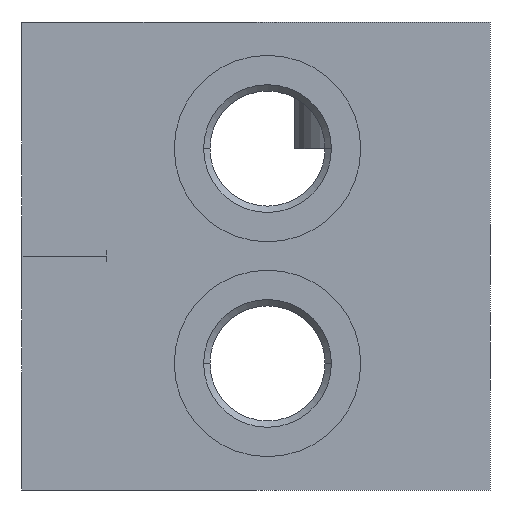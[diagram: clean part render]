
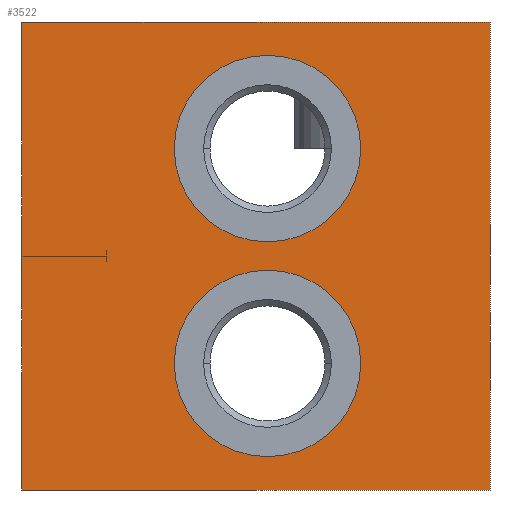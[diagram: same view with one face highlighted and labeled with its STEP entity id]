
A CAD part, left-side view. The second image highlights one B-rep face of the part: STEP entity #3522.
In plain terms, the highlighted planar face has unit normal (-1, 0, 0).
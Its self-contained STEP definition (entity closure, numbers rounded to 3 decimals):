
#25=DIRECTION('',(0.,-1.,0.));
#26=VECTOR('',#25,61.);
#27=CARTESIAN_POINT('',(0.,61.,0.));
#28=LINE('',#27,#26);
#97=DIRECTION('',(0.,0.,-1.));
#98=VECTOR('',#97,61.);
#99=CARTESIAN_POINT('',(0.,0.,0.));
#100=LINE('',#99,#98);
#559=DIRECTION('',(0.,0.,-1.));
#560=VECTOR('',#559,61.);
#561=CARTESIAN_POINT('',(0.,61.,0.));
#562=LINE('',#561,#560);
#563=CARTESIAN_POINT('',(0.,29.,-44.5));
#564=DIRECTION('',(1.,0.,0.));
#565=DIRECTION('',(0.,-1.,0.));
#566=AXIS2_PLACEMENT_3D('',#563,#564,#565);
#568=CARTESIAN_POINT('',(0.,29.,-44.5));
#569=DIRECTION('',(1.,0.,0.));
#570=DIRECTION('',(0.,1.,0.));
#571=AXIS2_PLACEMENT_3D('',#568,#569,#570);
#573=CARTESIAN_POINT('',(0.,29.,-16.5));
#574=DIRECTION('',(1.,0.,0.));
#575=DIRECTION('',(0.,-1.,0.));
#576=AXIS2_PLACEMENT_3D('',#573,#574,#575);
#578=CARTESIAN_POINT('',(0.,29.,-16.5));
#579=DIRECTION('',(1.,0.,0.));
#580=DIRECTION('',(0.,1.,0.));
#581=AXIS2_PLACEMENT_3D('',#578,#579,#580);
#595=DIRECTION('',(0.,-1.,0.));
#596=VECTOR('',#595,61.);
#597=CARTESIAN_POINT('',(0.,61.,-61.));
#598=LINE('',#597,#596);
#2683=CARTESIAN_POINT('',(0.,0.,0.));
#2685=VERTEX_POINT('',#2683);
#2689=CARTESIAN_POINT('',(0.,61.,0.));
#2690=VERTEX_POINT('',#2689);
#2691=CARTESIAN_POINT('',(0.,0.,-61.));
#2693=VERTEX_POINT('',#2691);
#2697=CARTESIAN_POINT('',(0.,61.,-61.));
#2698=VERTEX_POINT('',#2697);
#2711=CARTESIAN_POINT('',(0.,16.85,-44.5));
#2712=CARTESIAN_POINT('',(0.,41.15,-44.5));
#2713=VERTEX_POINT('',#2711);
#2714=VERTEX_POINT('',#2712);
#2727=CARTESIAN_POINT('',(0.,16.85,-16.5));
#2728=CARTESIAN_POINT('',(0.,41.15,-16.5));
#2729=VERTEX_POINT('',#2727);
#2730=VERTEX_POINT('',#2728);
#3498=CARTESIAN_POINT('',(0.,61.,0.));
#3499=DIRECTION('',(-1.,0.,0.));
#3500=DIRECTION('',(0.,-1.,0.));
#3501=AXIS2_PLACEMENT_3D('',#3498,#3499,#3500);
#3502=PLANE('',#3501);
#3503=ORIENTED_EDGE('',*,*,#3248,.T.);
#3504=ORIENTED_EDGE('',*,*,#3303,.T.);
#3506=ORIENTED_EDGE('',*,*,#3505,.F.);
#3507=ORIENTED_EDGE('',*,*,#3382,.F.);
#3508=EDGE_LOOP('',(#3503,#3504,#3506,#3507));
#3509=FACE_OUTER_BOUND('',#3508,.F.);
#3511=ORIENTED_EDGE('',*,*,#3510,.F.);
#3513=ORIENTED_EDGE('',*,*,#3512,.F.);
#3514=EDGE_LOOP('',(#3511,#3513));
#3515=FACE_BOUND('',#3514,.F.);
#3517=ORIENTED_EDGE('',*,*,#3516,.F.);
#3519=ORIENTED_EDGE('',*,*,#3518,.F.);
#3520=EDGE_LOOP('',(#3517,#3519));
#3521=FACE_BOUND('',#3520,.F.);
#567=CIRCLE('',#566,12.15);
#572=CIRCLE('',#571,12.15);
#577=CIRCLE('',#576,12.15);
#582=CIRCLE('',#581,12.15);
#3248=EDGE_CURVE('',#2690,#2685,#28,.T.);
#3303=EDGE_CURVE('',#2685,#2693,#100,.T.);
#3382=EDGE_CURVE('',#2690,#2698,#562,.T.);
#3505=EDGE_CURVE('',#2698,#2693,#598,.T.);
#3510=EDGE_CURVE('',#2713,#2714,#567,.T.);
#3512=EDGE_CURVE('',#2714,#2713,#572,.T.);
#3516=EDGE_CURVE('',#2729,#2730,#577,.T.);
#3518=EDGE_CURVE('',#2730,#2729,#582,.T.);
#3522=ADVANCED_FACE('',(#3509,#3515,#3521),#3502,.T.);
